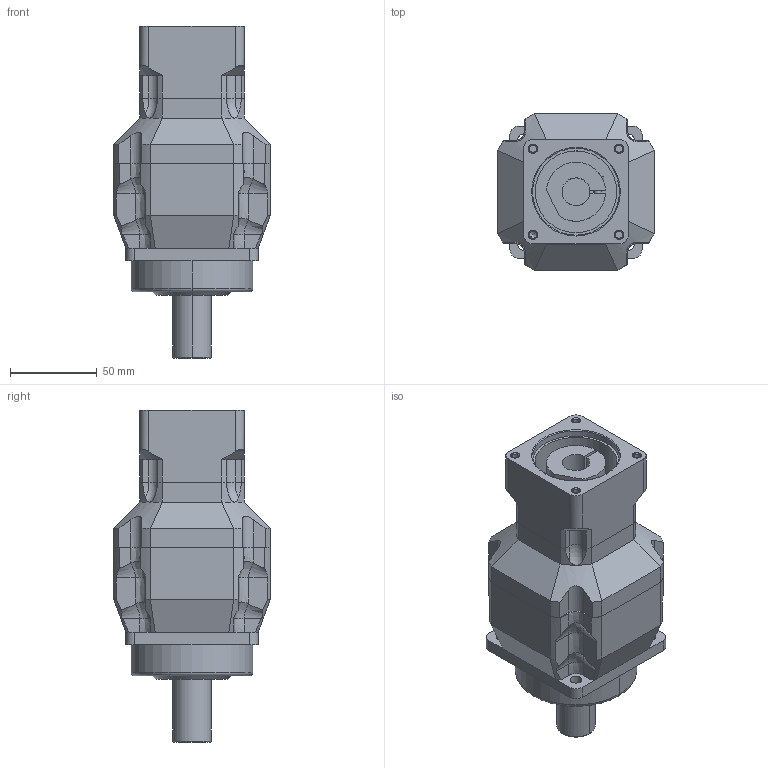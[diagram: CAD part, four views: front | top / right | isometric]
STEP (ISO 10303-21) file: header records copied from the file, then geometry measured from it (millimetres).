
FILE_DESCRIPTION((''),'2;1');
FILE_NAME('AF0752-P4020102_ASM','2005-09-13T',('jacky'),(''),'PRO/ENGINEER BY PARAMETRIC TECHNOLOGY CORPORATION, 2001280','PRO/ENGINEER BY PARAMETRIC TECHNOLOGY CORPORATION, 2001280','');
FILE_SCHEMA(('CONFIG_CONTROL_DESIGN'));
Length unit declared in the file: millimetre
Products named in the file (4): AF0752; AB0902-1; P4020102; AF0752-P4020102_ASM
Assembly tree (3 placements, depth 2):
  AF0752-P4020102_ASM
    AF0752
    AB0902-1
    P4020102
Bounding box: 90 x 90 x 191 mm (x, y, z)
Volume: 713666 mm3; surface area: 87680.7 mm2
Topology: 3 solids, 8 shells, 295 faces, 733 edges, 458 vertices
Faces by surface type: plane 110, cylinder 97, bspline 48, cone 28, torus 12
Entity records: 12081 total; most frequent: CARTESIAN_POINT 5109, ORIENTED_EDGE 1436, DIRECTION 1387, EDGE_CURVE 729, AXIS2_PLACEMENT_3D 513, VERTEX_POINT 458, VECTOR 361, LINE 361
